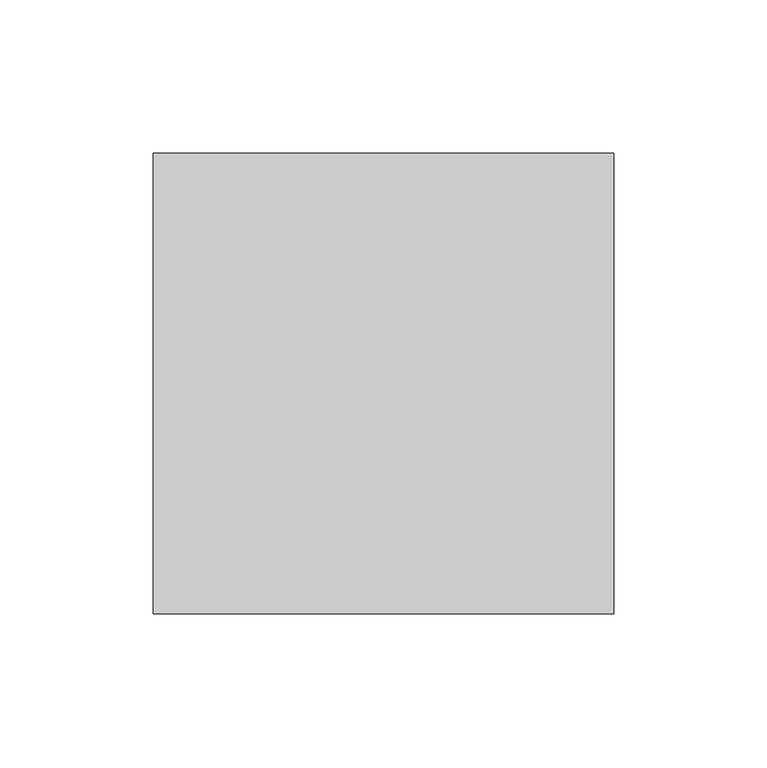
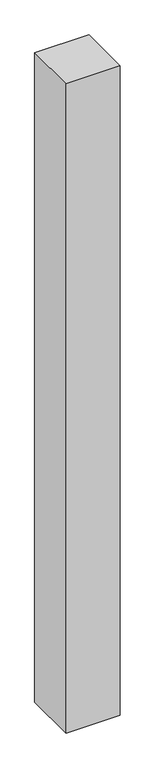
"""IFC4 building model written with IfcOpenShell, lengths in millimetres: member geometry, Угловой L-импост : Угловой L-импост."""

from ifc_helpers import new_model, si_unit, frame, origin, place, context, project, spatial, polyline, outline, extrude, source, transform, mapped, element, save


def member_248347da(model_context):
    return source(origin(), model_context, "Body", "SweptSolid", [
        extrude(outline(polyline([(-75.0, -75.0), (-75.0, 75.0), (75.0, 75.0), (75.0, -75.0), (-75.0, -75.0)])), frame((0.0, 0.0, -1900.0), z_axis=(0.0, 0.0, 1.0), x_axis=(1.0, 0.0, 0.0)), (0.0, 0.0, 1.0), 1900.0),
    ])


if __name__ == "__main__":
    model = new_model("IFC4")
    model_context = context("Model", 3, world=origin())
    ifc_project = project(units=[si_unit("LENGTHUNIT", "METRE", prefix="MILLI")], contexts=[model_context])
    site = spatial("IfcSite", under=ifc_project)
    building = spatial("IfcBuilding", under=site)
    placement = place(None, origin())
    member_shape = member_248347da(model_context)
    element("IfcMember", 1, ObjectType="Угловой L-импост : Угловой L-импост", at=placement, inside=building, context=model_context, shape_type="MappedRepresentation", body=[
        mapped(member_shape, transform((0.0, 0.0, 0.0), x_axis=(1.0, 0.0, 0.0), y_axis=(0.0, 1.0, 0.0), z_axis=(0.0, 0.0, 1.0))),
    ])
    save(model, "model.ifc")
